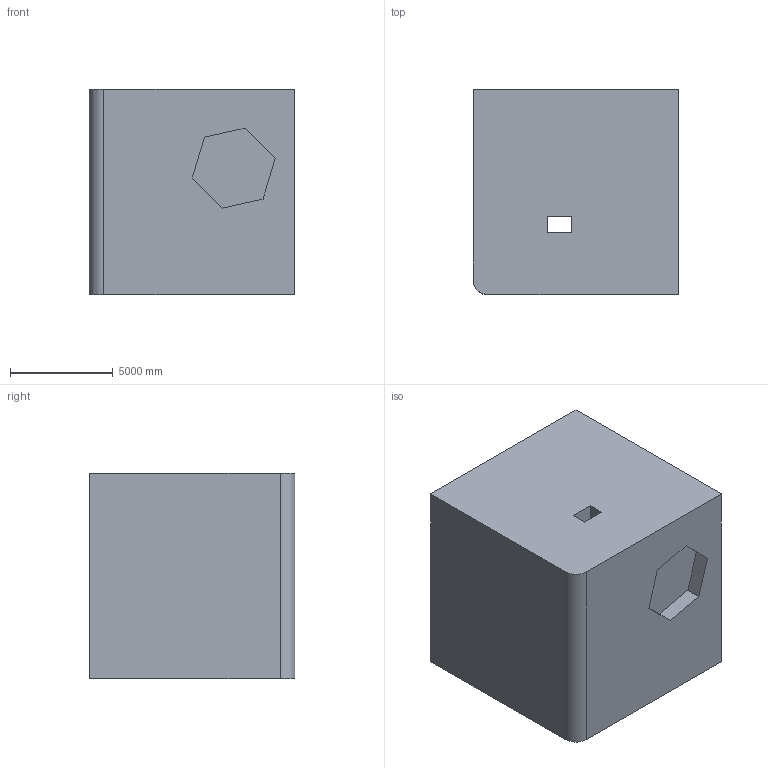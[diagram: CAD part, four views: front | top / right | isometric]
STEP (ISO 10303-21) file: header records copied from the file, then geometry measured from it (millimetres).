
FILE_DESCRIPTION (( 'STEP AP203' ), '1' );
FILE_NAME ('121.STEP', '2022-09-06T15:08:06', ( 'user' ), ( '' ), 'SwSTEP 2.0', 'SolidWorks 2021', '' );
FILE_SCHEMA (( 'CONFIG_CONTROL_DESIGN' ));
Length unit declared in the file: centimetre
Products named in the file (1): 121
Bounding box: 10000 x 10000 x 10000 mm (x, y, z)
Volume: 981285359118.1 mm3; surface area: 643609676.7 mm2
Topology: 1 solids, 1 shells, 18 faces, 45 edges, 30 vertices
Faces by surface type: plane 17, cylinder 1
Entity records: 612 total; most frequent: CARTESIAN_POINT 94, ORIENTED_EDGE 90, DIRECTION 85, EDGE_CURVE 45, VECTOR 43, LINE 43, VERTEX_POINT 30, EDGE_LOOP 21
